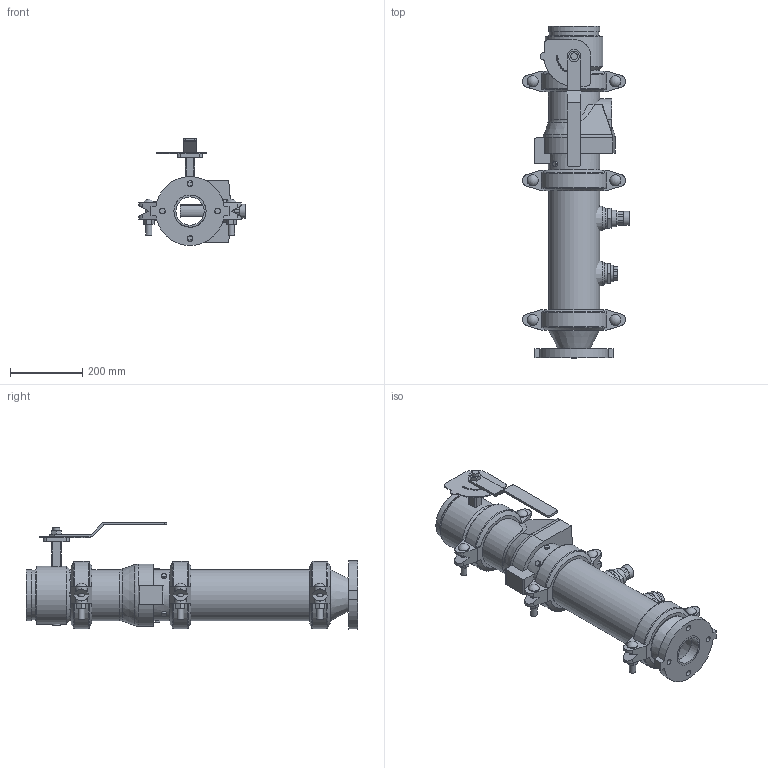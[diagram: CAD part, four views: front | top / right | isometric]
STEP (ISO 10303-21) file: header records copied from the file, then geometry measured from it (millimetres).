
FILE_DESCRIPTION(/* description */ ('VIC DVI PUMP DROP VERT S/380 (OGSxFLG) (S/924-0.75)','CAx-IF Rec.Pracs.---Representation and Presentation of Product Manufacturing Information (PMI)---4.0---2014-10-13'),/* implementation_level */ '2;1');
FILE_NAME(/* name */ 'C:\Users\Public\Documents\Victaulic.Temp\A765\Victaulic_IPS_Vertical DVI_CL 150_Series 380 (OGSxFLG)_924 (0.75)_05.0x03.0 (125x80).stp',/* time_stamp */ '2022-07-25T11:11:23+02:00',/* author */ ('Vjadhav'),/* organization */ ('Victaulic'),/* preprocessor_version */ 'ST-DEVELOPER v18',/* originating_system */ 'Autodesk Inventor 2020',/* authorisation */ '');
FILE_SCHEMA (('AP242_MANAGED_MODEL_BASED_3D_ENGINEERING_MIM_LF { 1 0 10303 442 1 1 4 }'));
Length unit declared in the file: inch
Products named in the file (9): 380_924 (0.75)-05.0x03.0; 741-03.0; 050-05.0x03.0; Pipe-05.0; 177N-05.0; 761-05.0; 779-05.0; 923-04.0x0.75; 924-04.0x0.75
Assembly tree (10 placements, depth 2):
  380_924 (0.75)-05.0x03.0
    741-03.0
    050-05.0x03.0
    177N-05.0  x3
    Pipe-05.0
    761-05.0
    779-05.0
    923-04.0x0.75
    924-04.0x0.75
Bounding box: 294.96 x 917.58 x 295.32 mm (x, y, z)
Volume: 7807381.6 mm3; surface area: 1393589.7 mm2
Topology: 10 solids, 11 shells, 587 faces, 1531 edges, 1024 vertices
Faces by surface type: plane 345, cylinder 196, cone 20, torus 18, sphere 6, bspline 2
Full cylindrical faces by diameter (mm): 4.826 x10, 8.636 x4, 13.716 x4, 15.875 x4, 17.78 x6, 19.05 x2, 22.86 x1, 26.67 x2, 30.48 x6, 38.608 x1, 45.974 x4, 55.118 x1, 55.626 x2, 77.927 x1, 84.938 x1, 88.9 x3, 128.194 x4, 128.6 x3, 137.033 x7, 141.3 x19, 160.02 x1
Entity records: 13928 total; most frequent: CARTESIAN_POINT 2769, DIRECTION 2297, ORIENTED_EDGE 2090, EDGE_CURVE 1045, AXIS2_PLACEMENT_3D 872, VERTEX_POINT 704, LINE 553, VECTOR 553
